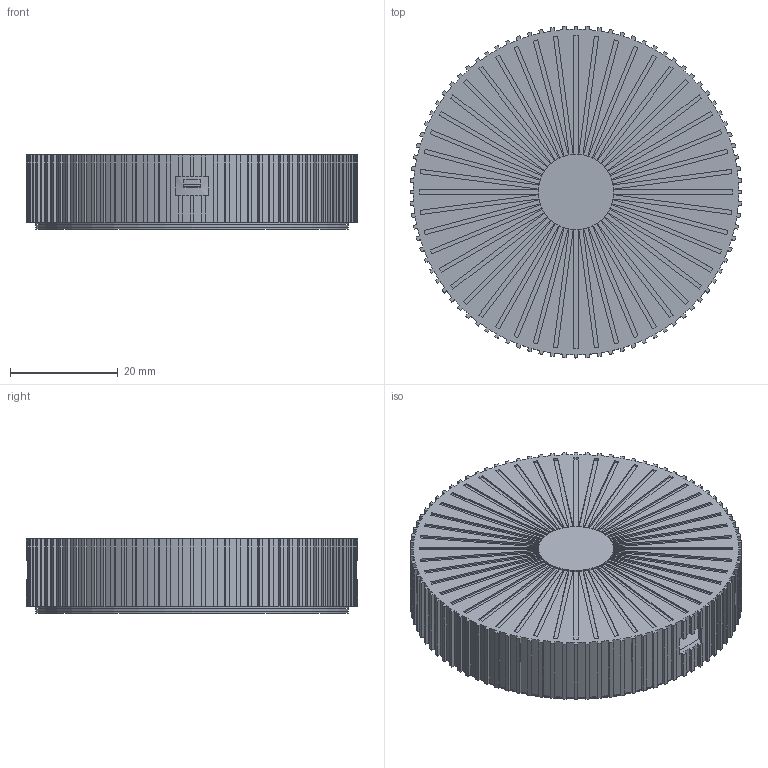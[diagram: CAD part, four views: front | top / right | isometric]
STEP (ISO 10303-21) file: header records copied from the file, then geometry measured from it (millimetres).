
FILE_DESCRIPTION(('Open CASCADE Model'),'2;1');
FILE_NAME('Open CASCADE Shape Model','2026-11-25T02:00:36',('Author'),( 'Open CASCADE'),'Open CASCADE STEP processor 7.9','Open CASCADE 7.9' ,'Unknown');
FILE_SCHEMA(('AUTOMOTIVE_DESIGN { 1 0 10303 214 1 1 1 1 }'));
Length unit declared in the file: millimetre
Products named in the file (21): Reverse_Load_Base_M2_Pressed; Rotating_Cap; Actuator_Compliance_Ring; Actuator_Shim; Encoder_Magnet; Stationary_Housing; Flexure_Retention_System; PCB_Dummy; Angle_Sensor_Dummy; BLE_MCU_Dummy; Tactile_Switch; CR2032; Battery_Holder; MagSafe_Magnet_Array; Magnetic_Shield; Bottom_Cover; Magnet_Retainer; Phone_Pad; M2_Fasteners; M2_Inserts; PCB_Spacer_Bushings
Assembly tree (20 placements, depth 2):
  Reverse_Load_Base_M2_Pressed
    Rotating_Cap
    Actuator_Compliance_Ring
    Actuator_Shim
    Encoder_Magnet
    Stationary_Housing
    Flexure_Retention_System
    PCB_Dummy
    Angle_Sensor_Dummy
    BLE_MCU_Dummy
    Tactile_Switch
    CR2032
    Battery_Holder
    MagSafe_Magnet_Array
    Magnetic_Shield
    Bottom_Cover
    Magnet_Retainer
    Phone_Pad
    M2_Fasteners
    M2_Inserts
    PCB_Spacer_Bushings
Bounding box: 61.6 x 61.6 x 13.75 mm (x, y, z)
Volume: 20612.2 mm3; surface area: 49564.3 mm2
Topology: 54 solids, 54 shells, 1745 faces, 4395 edges, 2833 vertices
Faces by surface type: plane 963, cylinder 413, bspline 326, cone 43
Full cylindrical faces by diameter (mm): 1.6 x1, 1.8 x4, 2 x8, 2.2 x8, 3.1 x4, 3.2 x4, 3.4 x4, 3.6 x8, 4.4 x4, 4.6 x4, 4.95 x24, 5 x25, 5.2 x1, 6.2 x4, 7.4 x1, 20 x1, 23.2 x3, 24.5 x1, 27.4 x3, 36.5 x1, 39.3 x2, 40.3 x1, 40.4 x1, 41.7 x1, 42 x2, 43.55 x1, 44.05 x1, 54.45 x1, 54.95 x1, 56.1 x1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
Entity records: 112914 total; most frequent: CARTESIAN_POINT 25105, DIRECTION 15559, LINE 10222, VECTOR 10222, ORIENTED_EDGE 8790, PCURVE 8790, DEFINITIONAL_REPRESENTATION 8790, EDGE_CURVE 4395
